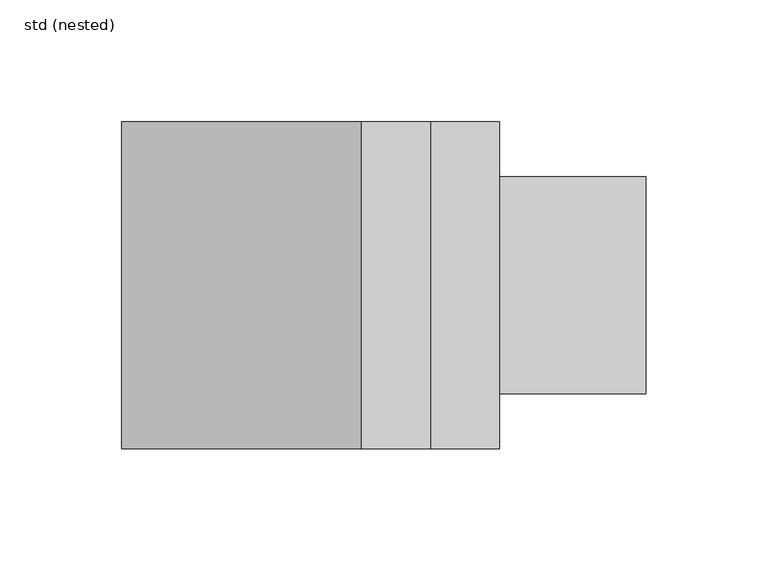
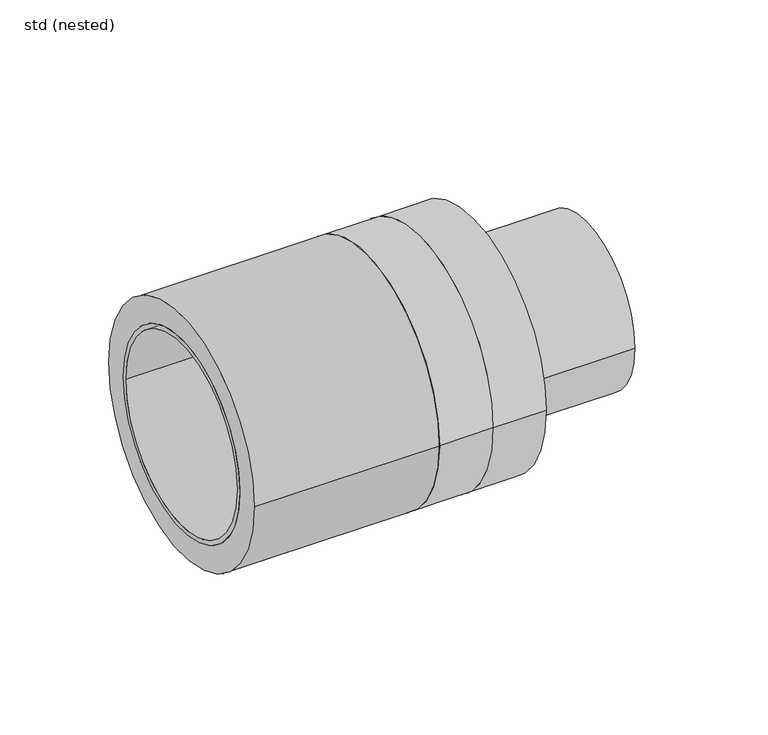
"""IFC4 building model written with IfcOpenShell, lengths in millimetres: pipe fitting geometry, ZZZ_do not use_PIF_ST_WPB_GM-X compound pipe optimiser_ACO : std (nested)."""

from ifc_helpers import new_model, si_unit, point, frame, origin, origin_2d, place, context, project, spatial, polyline, circle_curve, trimmed, segment, composite_curve, outline, extrude, source, transform, mapped, element, save
from ifc_brep_helpers import plane_surface, cylinder_surface, revolved_surface, advanced_brep


def std_nested_acabc59b(model_context):
    return source(origin(), model_context, "Body", "SolidModel", [
        advanced_brep(
        [(-61.7, 59.0, 0.0), (-33.0, 59.0, 0.0), (-33.0, -59.0, 0.0), (-61.7, -59.0, 0.0), (-70.0, -53.5, 0.0), (-70.0, 53.5, 0.0), (-70.0, 51.0, 0.0), (-70.0, -51.0, 0.0), (0.0, -53.5, 0.0), (0.0, 53.5, 0.0), (0.0, -51.0, 0.0), (0.0, 51.0, 0.0), (-33.0, -53.5, 0.0), (-33.0, 53.5, 0.0), (-61.7, 53.5, 0.0), (-61.7, -53.5, 0.0)],
        [
            (0, 1),
            (1, 2, circle_curve(frame((-33.0, 0.0, 0.0), z_axis=(-1.0, 0.0, 0.0), x_axis=(0.0, 1.0, 0.0)), 59.0)),
            (2, 3),
            (3, 0, circle_curve(frame((-61.7, 0.0, 0.0), z_axis=(1.0, 0.0, 0.0), x_axis=(0.0, 1.0, 0.0)), 59.0)),
            (2, 1, circle_curve(frame((-33.0, 0.0, 0.0), z_axis=(-1.0, 0.0, 0.0), x_axis=(0.0, 1.0, 0.0)), 59.0)),
            (0, 3, circle_curve(frame((-61.7, 0.0, 0.0), z_axis=(1.0, 0.0, 0.0), x_axis=(0.0, 1.0, 0.0)), 59.0)),
            (4, 5, circle_curve(frame((-70.0, 0.0, 0.0), z_axis=(-1.0, 0.0, 0.0), x_axis=(0.0, 1.0, 0.0)), 53.5)),
            (5, 4, circle_curve(frame((-70.0, 0.0, 0.0), z_axis=(-1.0, 0.0, 0.0), x_axis=(0.0, 1.0, 0.0)), 53.5)),
            (6, 7, circle_curve(frame((-70.0, 0.0, 0.0), z_axis=(1.0, 0.0, 0.0), x_axis=(0.0, 1.0, 0.0)), 51.0)),
            (7, 6, circle_curve(frame((-70.0, 0.0, 0.0), z_axis=(1.0, 0.0, 0.0), x_axis=(0.0, 1.0, 0.0)), 51.0)),
            (8, 9, circle_curve(frame((0.0, 0.0, 0.0), z_axis=(1.0, 0.0, 0.0), x_axis=(0.0, 1.0, 0.0)), 53.5)),
            (9, 8, circle_curve(frame((0.0, 0.0, 0.0), z_axis=(1.0, 0.0, 0.0), x_axis=(0.0, 1.0, 0.0)), 53.5)),
            (10, 11, circle_curve(frame((0.0, 0.0, 0.0), z_axis=(-1.0, 0.0, 0.0), x_axis=(0.0, 1.0, 0.0)), 51.0)),
            (11, 10, circle_curve(frame((0.0, 0.0, 0.0), z_axis=(-1.0, 0.0, 0.0), x_axis=(0.0, 1.0, 0.0)), 51.0)),
            (8, 12),
            (12, 13, circle_curve(frame((-33.0, 0.0, 0.0), z_axis=(1.0, 0.0, 0.0), x_axis=(0.0, 1.0, 0.0)), 53.5)),
            (13, 9),
            (5, 14),
            (14, 15, circle_curve(frame((-61.7, 0.0, 0.0), z_axis=(-1.0, 0.0, 0.0), x_axis=(0.0, 1.0, 0.0)), 53.5)),
            (15, 4),
            (15, 14, circle_curve(frame((-61.7, 0.0, 0.0), z_axis=(-1.0, 0.0, 0.0), x_axis=(0.0, 1.0, 0.0)), 53.5)),
            (13, 12, circle_curve(frame((-33.0, 0.0, 0.0), z_axis=(1.0, 0.0, 0.0), x_axis=(0.0, 1.0, 0.0)), 53.5)),
            (7, 10),
            (11, 6),
        ],
        [
            cylinder_surface(frame((-33.0, 0.0, 0.0), z_axis=(-1.0, 0.0, 0.0), x_axis=(0.0, 1.0, 0.0)), 59.0),
            plane_surface(frame((-70.0, 53.5, 0.0), z_axis=(-1.0, 0.0, 0.0), x_axis=(0.0, 0.0, 1.0))),
            plane_surface(frame((0.0, 53.5, 0.0), z_axis=(1.0, 0.0, 0.0), x_axis=(0.0, 0.0, -1.0))),
            cylinder_surface(frame((0.0, 0.0, 0.0), z_axis=(-1.0, 0.0, 0.0), x_axis=(0.0, 1.0, 0.0)), 53.5),
            revolved_surface(polyline([(-70.0, 51.0, 0.0), (0.0, 51.0, 0.0)]), (0.0, 0.0, 0.0), (-1.0, 0.0, 0.0)),
            plane_surface(frame((-61.7, 59.0, 0.0), z_axis=(-1.0, 0.0, 0.0), x_axis=(0.0, 0.0, 1.0))),
            plane_surface(frame((-33.0, 59.0, 0.0), z_axis=(1.0, 0.0, 0.0), x_axis=(0.0, 0.0, -1.0))),
        ],
        [
            (0, [[1, 2, 3, 4]]),
            (0, [[-3, 5, -1, 6]]),
            (1, [[7, 8], [9, 10]]),
            (2, [[11, 12], [13, 14]]),
            (3, [[15, 16, 17, -11]]),
            (3, [[18, 19, 20, -8]]),
            (3, [[-20, 21, -18, -7]]),
            (3, [[-17, 22, -15, -12]]),
            (4, [[-10, 23, -14, 24]]),
            (4, [[-13, -23, -9, -24]]),
            (5, [[-6, -4], [-21, -19]]),
            (6, [[-2, -5], [-22, -16]]),
        ],
    ),
        extrude(outline(composite_curve([segment(trimmed(circle_curve(origin_2d(), 67.0), [point((67.0, 0.0))], [point((-67.0, 0.0))], False, "CARTESIAN"), True, "CONTINUOUS"), segment(trimmed(circle_curve(origin_2d(), 67.0), [point((-67.0, 0.0))], [point((67.0, 0.0))], False, "CARTESIAN"), True, "CONTINUOUS")], self_intersect=False)), frame((28.3333333, 0.0, 0.0), z_axis=(1.0, 0.0, 0.0), x_axis=(0.0, 1.0, 0.0)), (0.0, 0.0, 1.0), 28.3333333),
        advanced_brep(
        [(-70.0, 67.0, 0.0), (-70.0, -67.0, 0.0), (-70.0, -53.5, 0.0), (-70.0, 53.5, 0.0), (28.3333333, 67.0, 0.0), (28.3333333, -67.0, 0.0), (0.0, 53.5, 0.0), (0.0, -53.5, 0.0)],
        [
            (0, 1, circle_curve(frame((-70.0, 0.0, 0.0), z_axis=(-1.0, 0.0, 0.0), x_axis=(0.0, -1.0, 0.0)), 67.0)),
            (1, 0, circle_curve(frame((-70.0, 0.0, 0.0), z_axis=(-1.0, 0.0, 0.0), x_axis=(0.0, -1.0, 0.0)), 67.0)),
            (2, 3, circle_curve(frame((-70.0, 0.0, 0.0), z_axis=(1.0, 0.0, 0.0), x_axis=(0.0, -1.0, 0.0)), 53.5)),
            (3, 2, circle_curve(frame((-70.0, 0.0, 0.0), z_axis=(1.0, 0.0, 0.0), x_axis=(0.0, -1.0, 0.0)), 53.5)),
            (4, 5, circle_curve(frame((28.3333333, 0.0, 0.0), z_axis=(1.0, 0.0, 0.0), x_axis=(0.0, -1.0, 0.0)), 67.0)),
            (5, 4, circle_curve(frame((28.3333333, 0.0, 0.0), z_axis=(1.0, 0.0, 0.0), x_axis=(0.0, -1.0, 0.0)), 67.0)),
            (1, 5),
            (4, 0),
            (6, 7, circle_curve(frame((0.0, 0.0, 0.0), z_axis=(-1.0, 0.0, 0.0), x_axis=(0.0, -1.0, 0.0)), 53.5)),
            (7, 6, circle_curve(frame((0.0, 0.0, 0.0), z_axis=(-1.0, 0.0, 0.0), x_axis=(0.0, -1.0, 0.0)), 53.5)),
            (7, 2),
            (3, 6),
        ],
        [
            plane_surface(frame((-70.0, -67.0, 0.0), z_axis=(-1.0, 0.0, 0.0), x_axis=(0.0, 0.0, -1.0))),
            plane_surface(frame((28.3333333, -67.0, 0.0), z_axis=(1.0, 0.0, 0.0), x_axis=(0.0, 0.0, 1.0))),
            cylinder_surface(frame((28.3333333, 0.0, 0.0), z_axis=(-1.0, 0.0, 0.0), x_axis=(0.0, -1.0, 0.0)), 67.0),
            plane_surface(frame((0.0, -53.5, 0.0), z_axis=(-1.0, 0.0, 0.0), x_axis=(0.0, 0.0, 1.0))),
            revolved_surface(polyline([(-70.0, -53.5, 0.0), (0.0, -53.5, 0.0)]), (0.0, 0.0, 0.0), (-1.0, 0.0, 0.0)),
        ],
        [
            (0, [[1, 2], [3, 4]]),
            (1, [[5, 6]]),
            (2, [[7, -5, 8, -2]]),
            (2, [[-8, -6, -7, -1]]),
            (3, [[9, 10]]),
            (4, [[11, -4, 12, -10]]),
            (4, [[-12, -3, -11, -9]]),
        ],
    ),
        extrude(outline(composite_curve([segment(trimmed(circle_curve(origin_2d(), 67.0), [point((-67.0, 0.0))], [point((67.0, 0.0))], False, "CARTESIAN"), True, "CONTINUOUS"), segment(trimmed(circle_curve(origin_2d(), 67.0), [point((67.0, 0.0))], [point((-67.0, 0.0))], False, "CARTESIAN"), True, "CONTINUOUS")], self_intersect=False)), frame((56.6666667, 0.0, 0.0), z_axis=(1.0, 0.0, 0.0), x_axis=(0.0, 1.0, 0.0)), (0.0, 0.0, 1.0), 28.3333333),
        extrude(outline(composite_curve([segment(trimmed(circle_curve(origin_2d(), 44.5), [point((-44.5, 0.0))], [point((44.5, 0.0))], False, "CARTESIAN"), True, "CONTINUOUS"), segment(trimmed(circle_curve(origin_2d(), 44.5), [point((44.5, 0.0))], [point((-44.5, 0.0))], False, "CARTESIAN"), True, "CONTINUOUS")], self_intersect=False)), frame((85.0, 0.0, 0.0), z_axis=(1.0, 0.0, 0.0), x_axis=(0.0, 1.0, 0.0)), (0.0, 0.0, 1.0), 60.0),
    ])


if __name__ == "__main__":
    model = new_model("IFC4")
    model_context = context("Model", 3, world=origin())
    ifc_project = project(units=[si_unit("LENGTHUNIT", "METRE", prefix="MILLI")], contexts=[model_context])
    site = spatial("IfcSite", under=ifc_project)
    building = spatial("IfcBuilding", under=site)
    placement = place(None, origin())
    std_nested_shape = std_nested_acabc59b(model_context)
    element("IfcPipeFitting", 1, ObjectType="ZZZ_do not use_PIF_ST_WPB_GM-X compound pipe optimiser_ACO : std (nested)", at=placement, inside=building, context=model_context, shape_type="MappedRepresentation", body=[
        mapped(std_nested_shape, transform((0.0, 0.0, 0.0), x_axis=(1.0, 0.0, 0.0), y_axis=(0.0, 1.0, 0.0), z_axis=(0.0, 0.0, 1.0))),
    ])
    save(model, "model.ifc")
